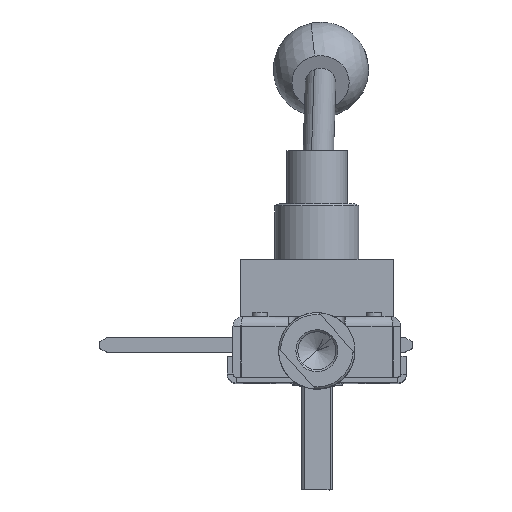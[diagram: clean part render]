
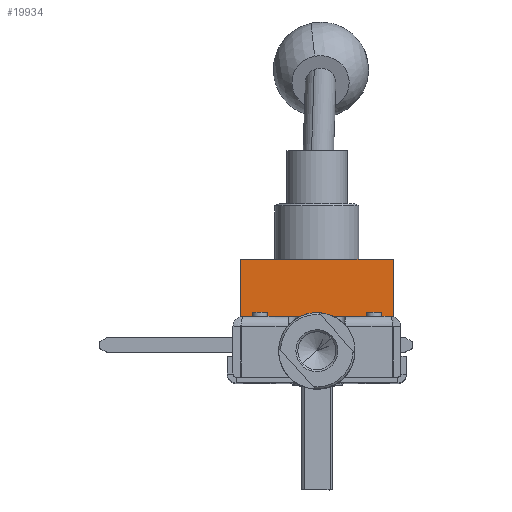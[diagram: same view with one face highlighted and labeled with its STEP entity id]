
A CAD part, top view. The second image highlights one B-rep face of the part: STEP entity #19934.
In plain terms, the highlighted planar face has unit normal (0, 0, 1) as drawn and (0, -1, 0) by its records, which use the part's own axes.
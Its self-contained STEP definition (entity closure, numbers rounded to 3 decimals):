
#2320 = CARTESIAN_POINT ( 'NONE',  ( -20., -40., -7.5 ) ) ;
#4205 = EDGE_CURVE ( 'NONE', #44083, #34466, #40588, .T. ) ;
#5135 = LINE ( 'NONE', #16715, #46272 ) ;
#5247 = ORIENTED_EDGE ( 'NONE', *, *, #14696, .T. ) ;
#5514 = ORIENTED_EDGE ( 'NONE', *, *, #26242, .F. ) ;
#9497 = LINE ( 'NONE', #11796, #37872 ) ;
#11796 = CARTESIAN_POINT ( 'NONE',  ( -20., -40., 7.5 ) ) ;
#13504 = CARTESIAN_POINT ( 'NONE',  ( -20., -40., 7.5 ) ) ;
#14696 = EDGE_CURVE ( 'NONE', #39136, #34911, #9497, .T. ) ;
#15611 = CARTESIAN_POINT ( 'NONE',  ( 20., -40., 7.5 ) ) ;
#15640 = LINE ( 'NONE', #27556, #25910 ) ;
#16715 = CARTESIAN_POINT ( 'NONE',  ( -20., -40., -7.5 ) ) ;
#19148 = PLANE ( 'NONE',  #40894 ) ;
#19934 = ADVANCED_FACE ( 'NONE', ( #36510 ), #19148, .F. ) ;
#20642 = ORIENTED_EDGE ( 'NONE', *, *, #39047, .T. ) ;
#23026 = DIRECTION ( 'NONE',  ( 0., 0., 1. ) ) ;
#25910 = VECTOR ( 'NONE', #35093, 1000. ) ;
#26242 = EDGE_CURVE ( 'NONE', #39136, #44083, #15640, .T. ) ;
#27556 = CARTESIAN_POINT ( 'NONE',  ( -20., -40., 7.5 ) ) ;
#28369 = DIRECTION ( 'NONE',  ( 1., 0., 0. ) ) ;
#30389 = ORIENTED_EDGE ( 'NONE', *, *, #4205, .F. ) ;
#34466 = VERTEX_POINT ( 'NONE', #49008 ) ;
#34901 = DIRECTION ( 'NONE',  ( 0., 0., -1. ) ) ;
#34911 = VERTEX_POINT ( 'NONE', #2320 ) ;
#35093 = DIRECTION ( 'NONE',  ( 1., 0., 0. ) ) ;
#36510 = FACE_OUTER_BOUND ( 'NONE', #39389, .T. ) ;
#37872 = VECTOR ( 'NONE', #34901, 1000. ) ;
#39047 = EDGE_CURVE ( 'NONE', #34911, #34466, #5135, .T. ) ;
#39136 = VERTEX_POINT ( 'NONE', #13504 ) ;
#39351 = VECTOR ( 'NONE', #42600, 1000. ) ;
#39389 = EDGE_LOOP ( 'NONE', ( #20642, #30389, #5514, #5247 ) ) ;
#40588 = LINE ( 'NONE', #15611, #39351 ) ;
#40894 = AXIS2_PLACEMENT_3D ( 'NONE', #42256, #46179, #23026 ) ;
#42256 = CARTESIAN_POINT ( 'NONE',  ( -20., -40., 7.5 ) ) ;
#42600 = DIRECTION ( 'NONE',  ( 0., 0., -1. ) ) ;
#44083 = VERTEX_POINT ( 'NONE', #49307 ) ;
#46179 = DIRECTION ( 'NONE',  ( 0., 1., 0. ) ) ;
#46272 = VECTOR ( 'NONE', #28369, 1000. ) ;
#49008 = CARTESIAN_POINT ( 'NONE',  ( 20., -40., -7.5 ) ) ;
#49307 = CARTESIAN_POINT ( 'NONE',  ( 20., -40., 7.5 ) ) ;
